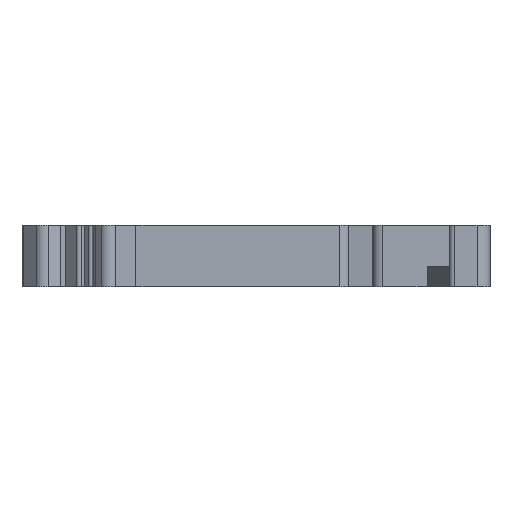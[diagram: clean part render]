
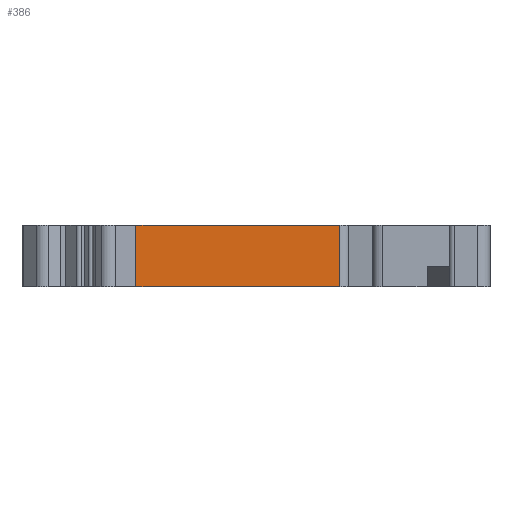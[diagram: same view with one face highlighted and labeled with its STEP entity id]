
A CAD part, left-side view. The second image highlights one B-rep face of the part: STEP entity #386.
In plain terms, the highlighted planar face has unit normal (-1, 0, 0).
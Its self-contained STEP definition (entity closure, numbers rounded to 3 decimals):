
#386=ADVANCED_FACE('',(#603),#479,.T.);
#479=PLANE('',#2966);
#603=FACE_OUTER_BOUND('',#737,.T.);
#737=EDGE_LOOP('',(#1342,#1343,#1344,#1345));
#1342=ORIENTED_EDGE('',*,*,#2156,.F.);
#1343=ORIENTED_EDGE('',*,*,#2157,.T.);
#1344=ORIENTED_EDGE('',*,*,#1921,.F.);
#1345=ORIENTED_EDGE('',*,*,#2155,.F.);
#1661=VERTEX_POINT('',#4002);
#1662=VERTEX_POINT('',#4004);
#1782=VERTEX_POINT('',#4469);
#1783=VERTEX_POINT('',#4473);
#1921=EDGE_CURVE('',#1661,#1662,#2264,.T.);
#2155=EDGE_CURVE('',#1782,#1661,#2452,.T.);
#2156=EDGE_CURVE('',#1783,#1782,#2453,.T.);
#2157=EDGE_CURVE('',#1783,#1662,#2454,.T.);
#2264=LINE('',#4003,#2552);
#2452=LINE('',#4470,#2740);
#2453=LINE('',#4472,#2741);
#2454=LINE('',#4474,#2742);
#2552=VECTOR('',#3168,1.);
#2740=VECTOR('',#3672,1.);
#2741=VECTOR('',#3675,1.);
#2742=VECTOR('',#3676,1.);
#2966=AXIS2_PLACEMENT_3D('',#4475,#3677,#3678);
#3168=DIRECTION('',(0.,-1.,0.));
#3672=DIRECTION('',(0.,0.,1.));
#3675=DIRECTION('',(0.,1.,0.));
#3676=DIRECTION('',(0.,0.,1.));
#3677=DIRECTION('',(-1.,0.,0.));
#3678=DIRECTION('',(0.,0.,1.));
#4002=CARTESIAN_POINT('',(1414.726,-3983.177,0.));
#4003=CARTESIAN_POINT('',(1414.726,-3983.177,0.));
#4004=CARTESIAN_POINT('',(1414.726,-4003.615,0.));
#4469=CARTESIAN_POINT('',(1414.726,-3983.177,-6.2));
#4470=CARTESIAN_POINT('',(1414.726,-3983.177,-35.5));
#4472=CARTESIAN_POINT('',(1414.726,-3983.177,-6.2));
#4473=CARTESIAN_POINT('',(1414.726,-4003.615,-6.2));
#4474=CARTESIAN_POINT('',(1414.726,-4003.615,-35.5));
#4475=CARTESIAN_POINT('',(1414.726,-3983.177,-35.5));
